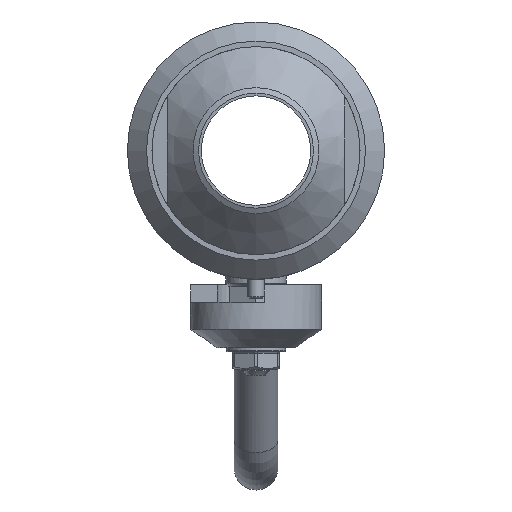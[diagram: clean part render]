
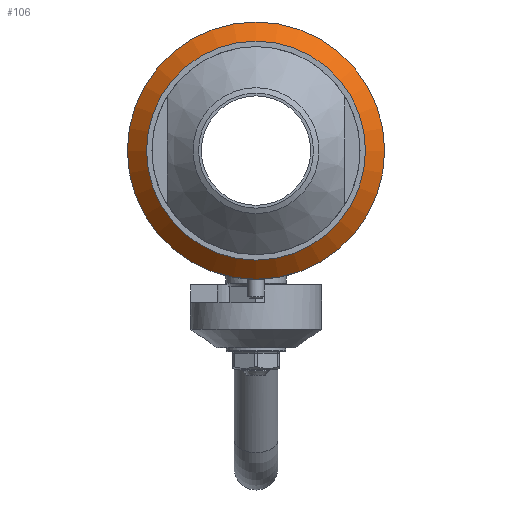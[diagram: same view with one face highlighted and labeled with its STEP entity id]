
A CAD part, left-side view. The second image highlights one B-rep face of the part: STEP entity #106.
In plain terms, the highlighted conical face has half-angle 45 degrees and reference radius 43.5 mm.
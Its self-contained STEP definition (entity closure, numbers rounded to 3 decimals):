
#106=ADVANCED_FACE('',(#895),#897,.T.);
#895=FACE_OUTER_BOUND('',#896,.T.);
#896=EDGE_LOOP('',(#1883,#1884,#1885,#1886));
#897=CONICAL_SURFACE('',#898,43.5,0.785);
#898=AXIS2_PLACEMENT_3D('',#899,#900,#901);
#899=CARTESIAN_POINT('',(-31.5,0.,0.));
#900=DIRECTION('',(1.,0.,0.));
#901=DIRECTION('',(0.,1.,0.));
#1883=ORIENTED_EDGE('',*,*,#2969,.T.);
#1884=ORIENTED_EDGE('',*,*,#2970,.T.);
#1885=ORIENTED_EDGE('',*,*,#2969,.F.);
#1886=ORIENTED_EDGE('',*,*,#2953,.F.);
#2953=EDGE_CURVE('',#3209,#3209,#3210,.T.);
#2969=EDGE_CURVE('',#3209,#3239,#3240,.T.);
#2970=EDGE_CURVE('',#3239,#3239,#3241,.T.);
#3209=VERTEX_POINT('',#3623);
#3210=CIRCLE('',#3624,40.);
#3239=VERTEX_POINT('',#3762);
#3240=LINE('',#3763,#3764);
#3241=CIRCLE('',#3766,47.);
#3623=CARTESIAN_POINT('',(-35.,-40.,0.));
#3624=AXIS2_PLACEMENT_3D('',#3625,#3626,#3627);
#3625=CARTESIAN_POINT('',(-35.,0.,0.));
#3626=DIRECTION('',(-1.,0.,0.));
#3627=DIRECTION('',(0.,-1.,0.));
#3762=CARTESIAN_POINT('',(-28.,-47.,0.));
#3763=CARTESIAN_POINT('',(-35.,-40.,0.));
#3764=VECTOR('',#3765,1.);
#3765=DIRECTION('',(0.707,-0.707,0.));
#3766=AXIS2_PLACEMENT_3D('',#3767,#3768,#3769);
#3767=CARTESIAN_POINT('',(-28.,0.,0.));
#3768=DIRECTION('',(-1.,0.,0.));
#3769=DIRECTION('',(0.,-1.,0.));
